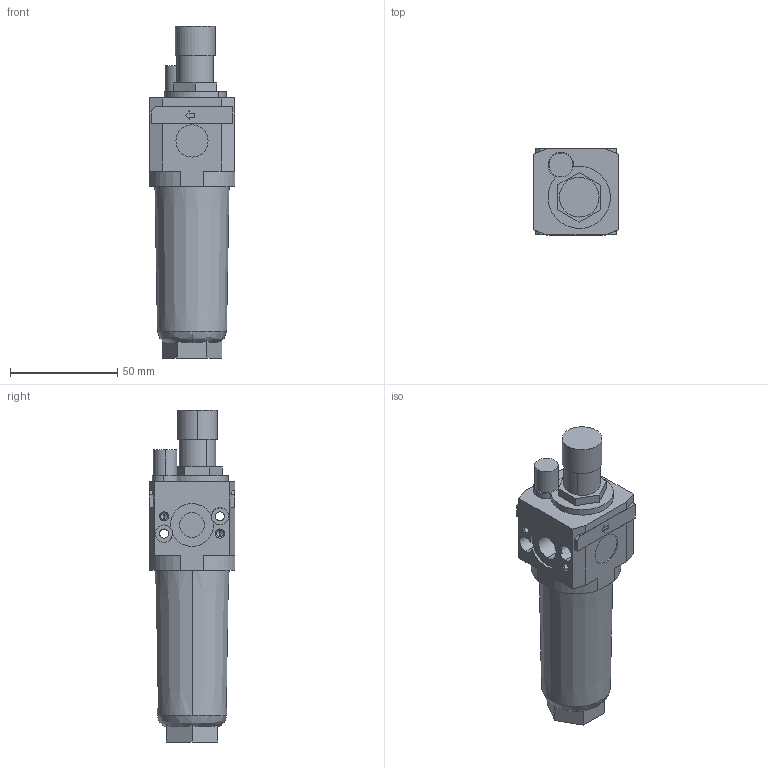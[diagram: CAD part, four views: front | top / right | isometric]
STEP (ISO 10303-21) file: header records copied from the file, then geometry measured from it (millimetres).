
FILE_DESCRIPTION((''),'2;1');
FILE_NAME('I:\DOC-EDP\Lib-3d\FRL\17103B.stp','2003-06-16T14:48:02',('maffial1'),(''),'Autodesk Inventor 7','Autodesk Inventor 7','');
FILE_SCHEMA(('AUTOMOTIVE_DESIGN { 1 0 10303 214 1 1 1 1 }'));
Length unit declared in the file: millimetre
Products named in the file (1): 17103B
Bounding box: 40 x 40 x 154.5 mm (x, y, z)
Volume: 134986.7 mm3; surface area: 25229.6 mm2
Topology: 1 solids, 3 shells, 154 faces, 386 edges, 248 vertices
Faces by surface type: plane 59, bspline 55, cylinder 30, cone 10
Entity records: 4967 total; most frequent: CARTESIAN_POINT 1392, ORIENTED_EDGE 756, DIRECTION 682, EDGE_CURVE 378, VECTOR 250, LINE 250, VERTEX_POINT 248, AXIS2_PLACEMENT_3D 216
